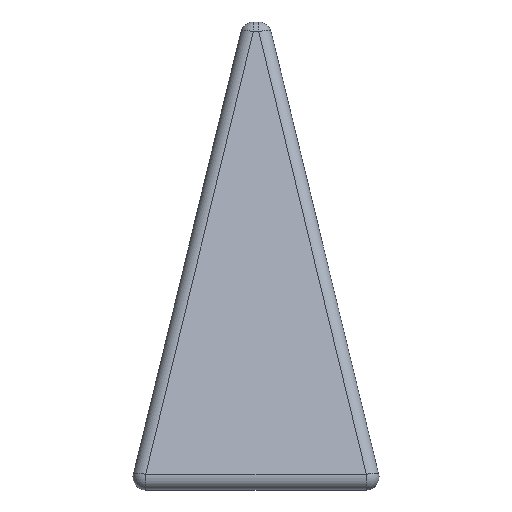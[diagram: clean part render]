
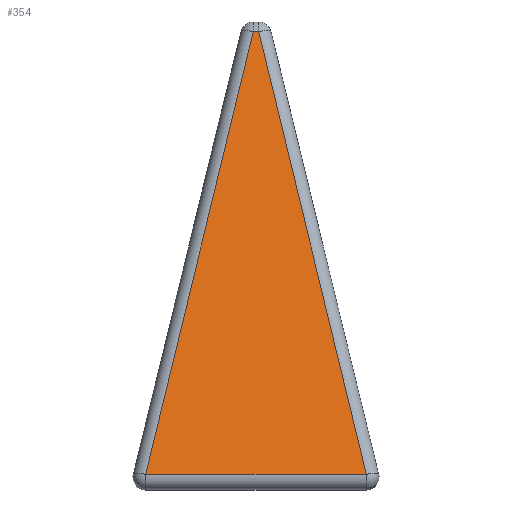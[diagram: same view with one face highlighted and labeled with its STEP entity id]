
A CAD part, left-side view. The second image highlights one B-rep face of the part: STEP entity #354.
In plain terms, the highlighted planar face has unit normal (-0.972, 0, 0.236).
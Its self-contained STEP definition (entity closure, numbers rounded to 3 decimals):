
#16=PLANE('',#418);
#25=LINE('',#592,#49);
#32=LINE('',#623,#56);
#34=LINE('',#626,#58);
#35=LINE('',#628,#59);
#49=VECTOR('',#475,10.);
#56=VECTOR('',#512,10.);
#58=VECTOR('',#516,10.);
#59=VECTOR('',#519,10.);
#102=FACE_OUTER_BOUND('',#128,.T.);
#128=EDGE_LOOP('',(#305,#306,#307,#308));
#164=VERTEX_POINT('',#566);
#170=VERTEX_POINT('',#583);
#176=VERTEX_POINT('',#603);
#179=VERTEX_POINT('',#613);
#200=EDGE_CURVE('',#164,#170,#25,.T.);
#216=EDGE_CURVE('',#170,#179,#32,.T.);
#218=EDGE_CURVE('',#179,#176,#34,.T.);
#219=EDGE_CURVE('',#176,#164,#35,.T.);
#305=ORIENTED_EDGE('',*,*,#200,.F.);
#306=ORIENTED_EDGE('',*,*,#219,.F.);
#307=ORIENTED_EDGE('',*,*,#218,.F.);
#308=ORIENTED_EDGE('',*,*,#216,.F.);
#354=ADVANCED_FACE('',(#102),#16,.T.);
#418=AXIS2_PLACEMENT_3D('',#643,#539,#540);
#475=DIRECTION('',(0.,1.,0.));
#512=DIRECTION('',(0.23,-0.23,0.946));
#516=DIRECTION('',(0.,-1.,0.));
#519=DIRECTION('',(-0.23,-0.23,-0.946));
#539=DIRECTION('center_axis',(-0.972,0.,0.236));
#540=DIRECTION('ref_axis',(0.236,0.,0.972));
#566=CARTESIAN_POINT('',(-193.985,-174.552,24.727));
#583=CARTESIAN_POINT('',(-193.985,174.552,24.727));
#592=CARTESIAN_POINT('',(-193.985,100.,24.727));
#603=CARTESIAN_POINT('',(-23.715,-4.282,724.727));
#613=CARTESIAN_POINT('',(-23.715,4.282,724.727));
#623=CARTESIAN_POINT('',(-190.447,171.013,39.274));
#626=CARTESIAN_POINT('',(-23.715,100.,724.727));
#628=CARTESIAN_POINT('',(-190.447,-171.013,39.274));
#643=CARTESIAN_POINT('Origin',(-200.,200.,0.));
